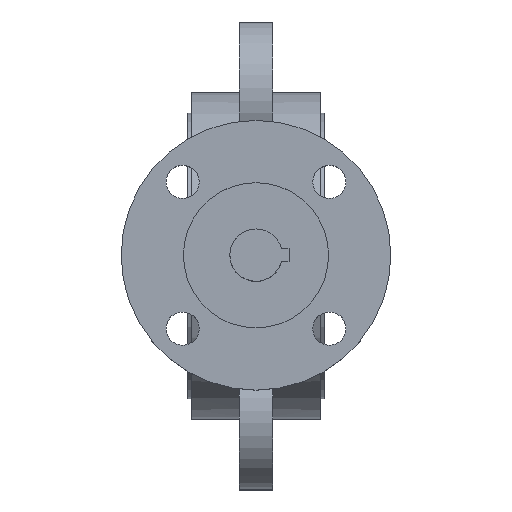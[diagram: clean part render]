
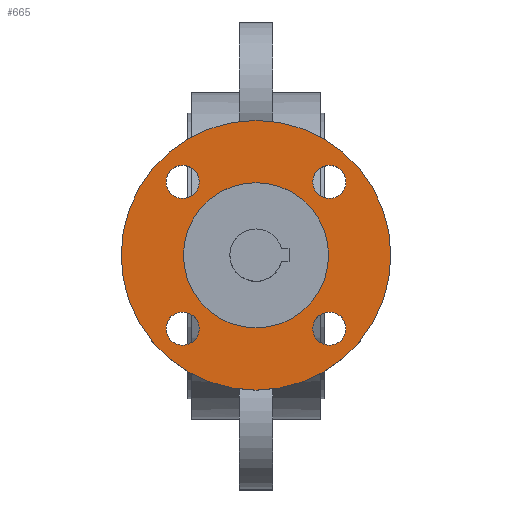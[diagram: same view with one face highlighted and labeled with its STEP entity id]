
A CAD part, top view. The second image highlights one B-rep face of the part: STEP entity #665.
In plain terms, the highlighted planar face has unit normal (0, 0, 1).
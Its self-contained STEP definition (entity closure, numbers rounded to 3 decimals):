
#665=ADVANCED_FACE('',(#1455,#1457,#1459,#1461,#1463,#1465),#1467,.T.);
#1455=FACE_BOUND('',#1456,.T.);
#1456=EDGE_LOOP('',(#1994));
#1457=FACE_BOUND('',#1458,.T.);
#1458=EDGE_LOOP('',(#1995));
#1459=FACE_BOUND('',#1460,.T.);
#1460=EDGE_LOOP('',(#1996));
#1461=FACE_BOUND('',#1462,.T.);
#1462=EDGE_LOOP('',(#1997));
#1463=FACE_BOUND('',#1464,.T.);
#1464=EDGE_LOOP('',(#1998));
#1465=FACE_BOUND('',#1466,.T.);
#1466=EDGE_LOOP('',(#1999));
#1467=PLANE('',#1468);
#1468=AXIS2_PLACEMENT_3D('',#1469,#1470,#1471);
#1469=CARTESIAN_POINT('',(0.,0.,100.));
#1470=DIRECTION('',(0.,0.,1.));
#1471=DIRECTION('',(0.,1.,0.));
#1994=ORIENTED_EDGE('',*,*,#2262,.F.);
#1995=ORIENTED_EDGE('',*,*,#2263,.T.);
#1996=ORIENTED_EDGE('',*,*,#2264,.T.);
#1997=ORIENTED_EDGE('',*,*,#2265,.T.);
#1998=ORIENTED_EDGE('',*,*,#2281,.T.);
#1999=ORIENTED_EDGE('',*,*,#2266,.T.);
#2262=EDGE_CURVE('',#2601,#2601,#2602,.T.);
#2263=EDGE_CURVE('',#2603,#2603,#2604,.F.);
#2264=EDGE_CURVE('',#2605,#2605,#2606,.F.);
#2265=EDGE_CURVE('',#2607,#2607,#2608,.F.);
#2266=EDGE_CURVE('',#2609,#2609,#2610,.F.);
#2281=EDGE_CURVE('',#2639,#2639,#2640,.T.);
#2601=VERTEX_POINT('',#4682);
#2602=CIRCLE('',#4683,32.5);
#2603=VERTEX_POINT('',#4687);
#2604=CIRCLE('',#4688,4.);
#2605=VERTEX_POINT('',#4692);
#2606=CIRCLE('',#4693,4.);
#2607=VERTEX_POINT('',#4697);
#2608=CIRCLE('',#4698,4.);
#2609=VERTEX_POINT('',#4702);
#2610=CIRCLE('',#4703,4.);
#2639=VERTEX_POINT('',#4770);
#2640=CIRCLE('',#4771,17.5);
#4682=CARTESIAN_POINT('',(0.,32.5,100.));
#4683=AXIS2_PLACEMENT_3D('',#4684,#4685,#4686);
#4684=CARTESIAN_POINT('',(0.,0.,100.));
#4685=DIRECTION('',(0.,0.,-1.));
#4686=DIRECTION('',(0.,1.,0.));
#4687=CARTESIAN_POINT('',(-13.678,-17.678,100.));
#4688=AXIS2_PLACEMENT_3D('',#4689,#4690,#4691);
#4689=CARTESIAN_POINT('',(-17.678,-17.678,100.));
#4690=DIRECTION('',(0.,0.,1.));
#4691=DIRECTION('',(1.,0.,0.));
#4692=CARTESIAN_POINT('',(-17.678,13.678,100.));
#4693=AXIS2_PLACEMENT_3D('',#4694,#4695,#4696);
#4694=CARTESIAN_POINT('',(-17.678,17.678,100.));
#4695=DIRECTION('',(0.,0.,1.));
#4696=DIRECTION('',(0.,-1.,0.));
#4697=CARTESIAN_POINT('',(13.678,17.678,100.));
#4698=AXIS2_PLACEMENT_3D('',#4699,#4700,#4701);
#4699=CARTESIAN_POINT('',(17.678,17.678,100.));
#4700=DIRECTION('',(0.,0.,1.));
#4701=DIRECTION('',(-1.,0.,0.));
#4702=CARTESIAN_POINT('',(17.678,-13.678,100.));
#4703=AXIS2_PLACEMENT_3D('',#4704,#4705,#4706);
#4704=CARTESIAN_POINT('',(17.678,-17.678,100.));
#4705=DIRECTION('',(0.,0.,1.));
#4706=DIRECTION('',(0.,1.,0.));
#4770=CARTESIAN_POINT('',(0.,17.5,100.));
#4771=AXIS2_PLACEMENT_3D('',#4772,#4773,#4774);
#4772=CARTESIAN_POINT('',(0.,0.,100.));
#4773=DIRECTION('',(0.,0.,-1.));
#4774=DIRECTION('',(0.,1.,0.));
